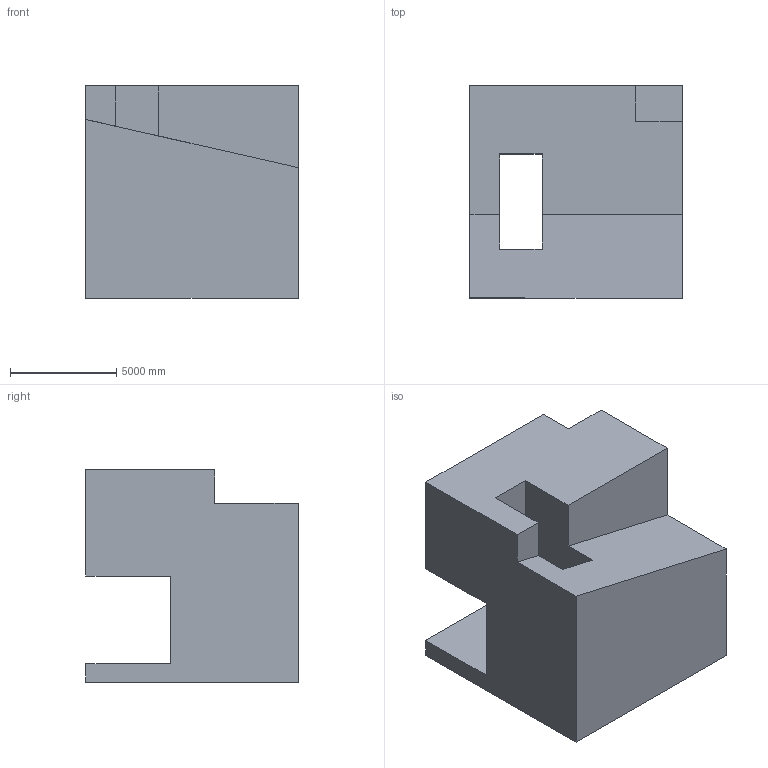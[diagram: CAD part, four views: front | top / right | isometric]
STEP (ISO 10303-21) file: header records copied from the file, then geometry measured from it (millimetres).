
FILE_DESCRIPTION (( 'STEP AP203' ), '1' );
FILE_NAME ('1390.STEP', '2022-08-18T14:11:54', ( 'user' ), ( '' ), 'SwSTEP 2.0', 'SolidWorks 2021', '' );
FILE_SCHEMA (( 'CONFIG_CONTROL_DESIGN' ));
Length unit declared in the file: centimetre
Products named in the file (1): 1390
Bounding box: 10000 x 10000 x 10000 mm (x, y, z)
Volume: 647096706640.1 mm3; surface area: 694331470.6 mm2
Topology: 1 solids, 1 shells, 21 faces, 66 edges, 44 vertices
Faces by surface type: plane 21
Entity records: 805 total; most frequent: ORIENTED_EDGE 132, CARTESIAN_POINT 132, DIRECTION 110, LINE 66, VECTOR 66, EDGE_CURVE 66, VERTEX_POINT 44, EDGE_LOOP 22
